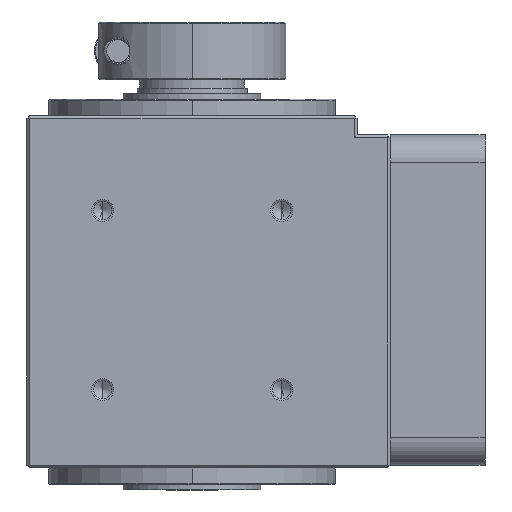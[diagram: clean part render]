
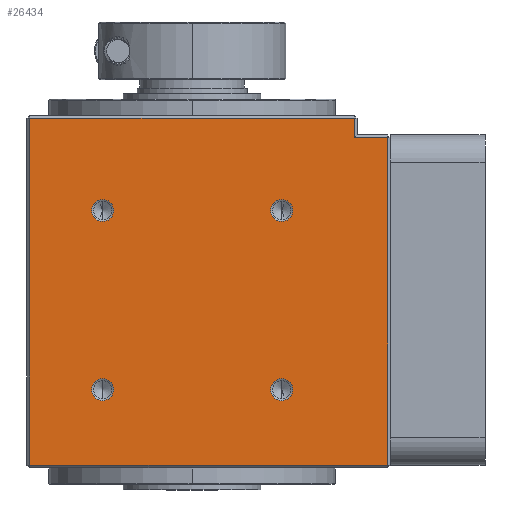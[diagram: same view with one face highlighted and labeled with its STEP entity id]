
A CAD part, left-side view. The second image highlights one B-rep face of the part: STEP entity #26434.
In plain terms, the highlighted planar face has unit normal (-1, 0, 0) as drawn and (1, 0, 0) by its records, which use the part's own axes.
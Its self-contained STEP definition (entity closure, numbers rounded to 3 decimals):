
#43 = EDGE_CURVE ( 'NONE', #9195, #24685, #5527, .T. ) ;
#337 = LINE ( 'NONE', #37287, #6364 ) ;
#668 = DIRECTION ( 'NONE',  ( 0., 0., -1. ) ) ;
#684 = CIRCLE ( 'NONE', #7556, 2. ) ;
#789 = DIRECTION ( 'NONE',  ( 0., 0., -1. ) ) ;
#1104 = LINE ( 'NONE', #35950, #25287 ) ;
#1105 = LINE ( 'NONE', #34418, #31345 ) ;
#1150 = ORIENTED_EDGE ( 'NONE', *, *, #5830, .F. ) ;
#1271 = FACE_BOUND ( 'NONE', #32508, .T. ) ;
#1401 = CARTESIAN_POINT ( 'NONE',  ( 30., -35.5, 7. ) ) ;
#1512 = AXIS2_PLACEMENT_3D ( 'NONE', #2565, #35071, #28815 ) ;
#1675 = EDGE_LOOP ( 'NONE', ( #1150, #29410 ) ) ;
#2077 = CARTESIAN_POINT ( 'NONE',  ( 30., -29.5, 3.5 ) ) ;
#2454 = CARTESIAN_POINT ( 'NONE',  ( 30., -30., 7. ) ) ;
#2474 = CIRCLE ( 'NONE', #17390, 2. ) ;
#2565 = CARTESIAN_POINT ( 'NONE',  ( 30., -16.263, 52.763 ) ) ;
#3178 = LINE ( 'NONE', #2454, #18040 ) ;
#3352 = AXIS2_PLACEMENT_3D ( 'NONE', #20054, #34881, #11210 ) ;
#3482 = EDGE_CURVE ( 'NONE', #11028, #28374, #684, .T. ) ;
#3623 = DIRECTION ( 'NONE',  ( 0., 0., -1. ) ) ;
#3729 = VERTEX_POINT ( 'NONE', #18728 ) ;
#3889 = DIRECTION ( 'NONE',  ( 1., 0., 0. ) ) ;
#4288 = CIRCLE ( 'NONE', #6684, 2. ) ;
#4490 = ORIENTED_EDGE ( 'NONE', *, *, #43, .F. ) ;
#4535 = DIRECTION ( 'NONE',  ( 0., 1., 0. ) ) ;
#4751 = VERTEX_POINT ( 'NONE', #16619 ) ;
#4801 = EDGE_CURVE ( 'NONE', #30124, #3729, #1105, .T. ) ;
#5093 = EDGE_CURVE ( 'NONE', #24685, #9195, #2474, .T. ) ;
#5516 = VERTEX_POINT ( 'NONE', #2077 ) ;
#5527 = CIRCLE ( 'NONE', #7284, 2. ) ;
#5556 = DIRECTION ( 'NONE',  ( 0., 0., 1. ) ) ;
#5830 = EDGE_CURVE ( 'NONE', #29904, #27250, #4288, .T. ) ;
#6364 = VECTOR ( 'NONE', #19460, 1000. ) ;
#6684 = AXIS2_PLACEMENT_3D ( 'NONE', #15971, #3889, #12737 ) ;
#6767 = VERTEX_POINT ( 'NONE', #26994 ) ;
#6921 = CARTESIAN_POINT ( 'NONE',  ( 30., -16.263, 20.237 ) ) ;
#7284 = AXIS2_PLACEMENT_3D ( 'NONE', #6921, #9920, #668 ) ;
#7556 = AXIS2_PLACEMENT_3D ( 'NONE', #18332, #24194, #789 ) ;
#7993 = CARTESIAN_POINT ( 'NONE',  ( 30., -16.263, 22.237 ) ) ;
#8106 = VERTEX_POINT ( 'NONE', #16141 ) ;
#8528 = CIRCLE ( 'NONE', #21802, 2. ) ;
#8659 = ORIENTED_EDGE ( 'NONE', *, *, #4801, .T. ) ;
#8699 = LINE ( 'NONE', #37057, #11506 ) ;
#8871 = EDGE_LOOP ( 'NONE', ( #18879, #4490 ) ) ;
#9176 = FACE_BOUND ( 'NONE', #1675, .T. ) ;
#9195 = VERTEX_POINT ( 'NONE', #7993 ) ;
#9723 = ORIENTED_EDGE ( 'NONE', *, *, #16250, .F. ) ;
#9920 = DIRECTION ( 'NONE',  ( 1., 0., 0. ) ) ;
#10264 = CARTESIAN_POINT ( 'NONE',  ( 30., 16.263, 54.763 ) ) ;
#10817 = AXIS2_PLACEMENT_3D ( 'NONE', #12540, #27449, #15647 ) ;
#11028 = VERTEX_POINT ( 'NONE', #32898 ) ;
#11210 = DIRECTION ( 'NONE',  ( 0., 0., -1. ) ) ;
#11506 = VECTOR ( 'NONE', #4535, 1000. ) ;
#12356 = CIRCLE ( 'NONE', #1512, 2. ) ;
#12540 = CARTESIAN_POINT ( 'NONE',  ( 30., -30., 70. ) ) ;
#12582 = ORIENTED_EDGE ( 'NONE', *, *, #27428, .T. ) ;
#12698 = CARTESIAN_POINT ( 'NONE',  ( 30., -16.263, 54.763 ) ) ;
#12737 = DIRECTION ( 'NONE',  ( 0., 0., -1. ) ) ;
#12787 = CARTESIAN_POINT ( 'NONE',  ( 30., -16.263, 20.237 ) ) ;
#12805 = PLANE ( 'NONE',  #10817 ) ;
#13785 = LINE ( 'NONE', #22297, #23533 ) ;
#15564 = CARTESIAN_POINT ( 'NONE',  ( 30., 16.263, 22.237 ) ) ;
#15595 = EDGE_CURVE ( 'NONE', #3729, #6767, #13785, .T. ) ;
#15647 = DIRECTION ( 'NONE',  ( 0., -1., 0. ) ) ;
#15971 = CARTESIAN_POINT ( 'NONE',  ( 30., 16.263, 20.237 ) ) ;
#16141 = CARTESIAN_POINT ( 'NONE',  ( 30., -16.263, 50.763 ) ) ;
#16172 = FACE_BOUND ( 'NONE', #8871, .T. ) ;
#16250 = EDGE_CURVE ( 'NONE', #8106, #38414, #12356, .T. ) ;
#16619 = CARTESIAN_POINT ( 'NONE',  ( 30., -29.5, 7. ) ) ;
#17163 = EDGE_CURVE ( 'NONE', #5516, #30124, #8699, .T. ) ;
#17275 = ORIENTED_EDGE ( 'NONE', *, *, #15595, .T. ) ;
#17390 = AXIS2_PLACEMENT_3D ( 'NONE', #12787, #24336, #21222 ) ;
#18040 = VECTOR ( 'NONE', #23786, 1000. ) ;
#18332 = CARTESIAN_POINT ( 'NONE',  ( 30., 16.263, 52.763 ) ) ;
#18391 = AXIS2_PLACEMENT_3D ( 'NONE', #18421, #35875, #3623 ) ;
#18421 = CARTESIAN_POINT ( 'NONE',  ( 30., 16.263, 20.237 ) ) ;
#18728 = CARTESIAN_POINT ( 'NONE',  ( 30., 29.5, 66.5 ) ) ;
#18879 = ORIENTED_EDGE ( 'NONE', *, *, #5093, .F. ) ;
#19460 = DIRECTION ( 'NONE',  ( 0., 0., -1. ) ) ;
#19940 = EDGE_CURVE ( 'NONE', #28374, #11028, #24839, .T. ) ;
#20054 = CARTESIAN_POINT ( 'NONE',  ( 30., 16.263, 52.763 ) ) ;
#20292 = EDGE_CURVE ( 'NONE', #38414, #8106, #8528, .T. ) ;
#20764 = VERTEX_POINT ( 'NONE', #1401 ) ;
#21222 = DIRECTION ( 'NONE',  ( 0., 0., -1. ) ) ;
#21802 = AXIS2_PLACEMENT_3D ( 'NONE', #35642, #35379, #26504 ) ;
#22297 = CARTESIAN_POINT ( 'NONE',  ( 30., -36., 66.5 ) ) ;
#22900 = CARTESIAN_POINT ( 'NONE',  ( 30., -16.263, 18.237 ) ) ;
#23361 = ORIENTED_EDGE ( 'NONE', *, *, #20292, .F. ) ;
#23533 = VECTOR ( 'NONE', #25265, 1000. ) ;
#23786 = DIRECTION ( 'NONE',  ( 0., 1., 0. ) ) ;
#24194 = DIRECTION ( 'NONE',  ( 1., 0., 0. ) ) ;
#24336 = DIRECTION ( 'NONE',  ( 1., 0., 0. ) ) ;
#24685 = VERTEX_POINT ( 'NONE', #22900 ) ;
#24839 = CIRCLE ( 'NONE', #3352, 2. ) ;
#25265 = DIRECTION ( 'NONE',  ( 0., -1., 0. ) ) ;
#25287 = VECTOR ( 'NONE', #26565, 1000. ) ;
#26081 = ORIENTED_EDGE ( 'NONE', *, *, #17163, .T. ) ;
#26434 = ADVANCED_FACE ( 'NONE', ( #34329, #9176, #1271, #27786, #16172 ), #12805, .F. ) ;
#26504 = DIRECTION ( 'NONE',  ( 0., 0., -1. ) ) ;
#26565 = DIRECTION ( 'NONE',  ( 0., 0., -1. ) ) ;
#26994 = CARTESIAN_POINT ( 'NONE',  ( 30., -35.5, 66.5 ) ) ;
#27250 = VERTEX_POINT ( 'NONE', #15564 ) ;
#27428 = EDGE_CURVE ( 'NONE', #6767, #20764, #337, .T. ) ;
#27449 = DIRECTION ( 'NONE',  ( -1., 0., 0. ) ) ;
#27786 = FACE_BOUND ( 'NONE', #37363, .T. ) ;
#28374 = VERTEX_POINT ( 'NONE', #10264 ) ;
#28815 = DIRECTION ( 'NONE',  ( 0., 0., -1. ) ) ;
#28951 = EDGE_LOOP ( 'NONE', ( #29450, #35066, #26081, #8659, #17275, #12582 ) ) ;
#29410 = ORIENTED_EDGE ( 'NONE', *, *, #37620, .F. ) ;
#29450 = ORIENTED_EDGE ( 'NONE', *, *, #37403, .T. ) ;
#29904 = VERTEX_POINT ( 'NONE', #30511 ) ;
#30124 = VERTEX_POINT ( 'NONE', #33765 ) ;
#30511 = CARTESIAN_POINT ( 'NONE',  ( 30., 16.263, 18.237 ) ) ;
#30704 = EDGE_CURVE ( 'NONE', #4751, #5516, #1104, .T. ) ;
#31345 = VECTOR ( 'NONE', #5556, 1000. ) ;
#32431 = CIRCLE ( 'NONE', #18391, 2. ) ;
#32508 = EDGE_LOOP ( 'NONE', ( #38126, #33334 ) ) ;
#32898 = CARTESIAN_POINT ( 'NONE',  ( 30., 16.263, 50.763 ) ) ;
#33334 = ORIENTED_EDGE ( 'NONE', *, *, #19940, .F. ) ;
#33765 = CARTESIAN_POINT ( 'NONE',  ( 30., 29.5, 3.5 ) ) ;
#34329 = FACE_OUTER_BOUND ( 'NONE', #28951, .T. ) ;
#34418 = CARTESIAN_POINT ( 'NONE',  ( 30., 29.5, 70. ) ) ;
#34881 = DIRECTION ( 'NONE',  ( 1., 0., 0. ) ) ;
#35066 = ORIENTED_EDGE ( 'NONE', *, *, #30704, .T. ) ;
#35071 = DIRECTION ( 'NONE',  ( 1., 0., 0. ) ) ;
#35379 = DIRECTION ( 'NONE',  ( 1., 0., 0. ) ) ;
#35642 = CARTESIAN_POINT ( 'NONE',  ( 30., -16.263, 52.763 ) ) ;
#35875 = DIRECTION ( 'NONE',  ( 1., 0., 0. ) ) ;
#35950 = CARTESIAN_POINT ( 'NONE',  ( 30., -29.5, 70. ) ) ;
#37057 = CARTESIAN_POINT ( 'NONE',  ( 30., 30., 3.5 ) ) ;
#37287 = CARTESIAN_POINT ( 'NONE',  ( 30., -35.5, 70. ) ) ;
#37363 = EDGE_LOOP ( 'NONE', ( #9723, #23361 ) ) ;
#37403 = EDGE_CURVE ( 'NONE', #20764, #4751, #3178, .T. ) ;
#37620 = EDGE_CURVE ( 'NONE', #27250, #29904, #32431, .T. ) ;
#38126 = ORIENTED_EDGE ( 'NONE', *, *, #3482, .F. ) ;
#38414 = VERTEX_POINT ( 'NONE', #12698 ) ;
